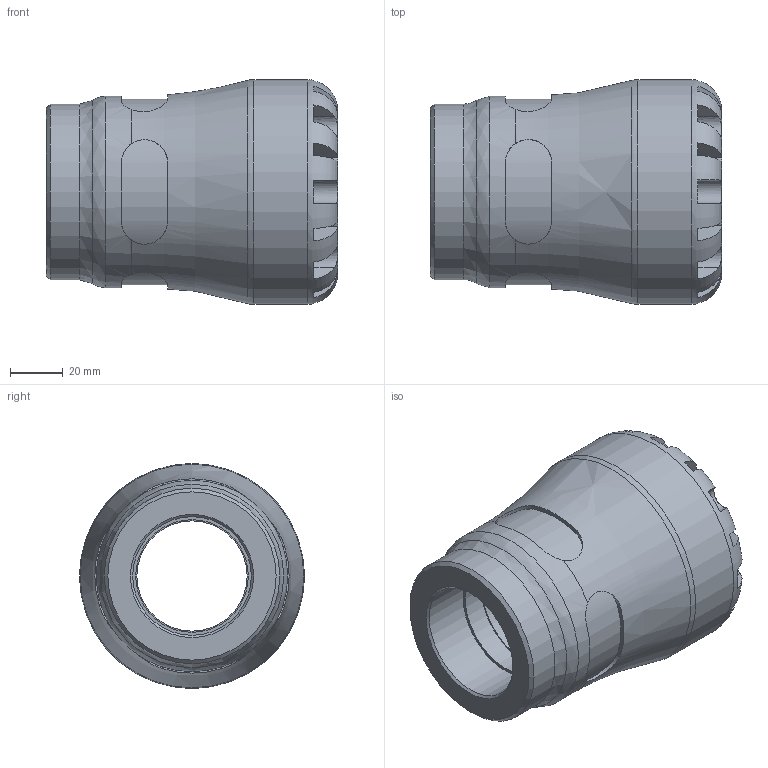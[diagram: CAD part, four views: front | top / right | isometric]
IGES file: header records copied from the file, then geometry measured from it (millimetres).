
Global section: file name: 1003G0050015_1903G0050015.ipt; native system: Autodesk Inventor 2015; preprocessor: unknown; author: KIM; date: 20190127.091359; units: millimetre
Bounding box: 110 x 85 x 85 mm (x, y, z)
Volume: 295917.2 mm3; surface area: 51143 mm2
Topology: 1 solids, 1 shells, 104 faces, 279 edges, 180 vertices
Faces by surface type: plane 61, revolution 27, cylinder 15, cone 1
Full cylindrical faces by diameter (mm): 66.3 x1, 72.25 x1, 85 x1
